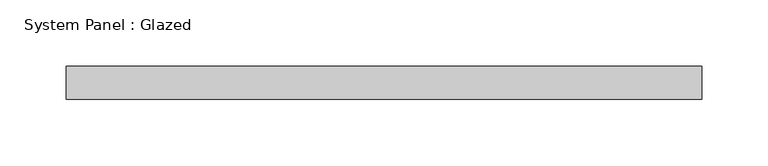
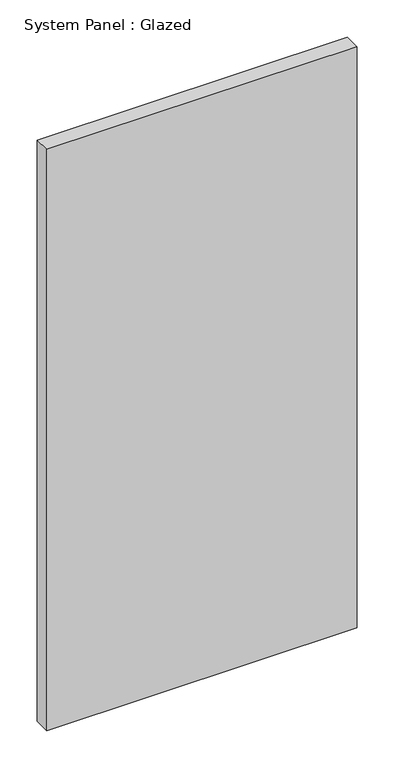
"""IFC4 building model written with IfcOpenShell, lengths in millimetres: plate geometry, System Panel : Glazed."""

from ifc_helpers import new_model, si_unit, origin, origin_with_axes, place, context, project, spatial, polyline, outline, extrude, source, transform, mapped, element, save


def system_panel_glazed_03557e9a(model_context):
    return source(origin(), model_context, "Body", "SweptSolid", [
        extrude(outline(polyline([(240.0, 24.5), (-240.0, 24.5), (-240.0, 49.5), (240.0, 49.5), (240.0, 24.5)])), origin_with_axes(), (0.0, 0.0, 1.0), 950.0),
    ])


if __name__ == "__main__":
    model = new_model("IFC4")
    model_context = context("Model", 3, world=origin())
    ifc_project = project(units=[si_unit("LENGTHUNIT", "METRE", prefix="MILLI")], contexts=[model_context])
    site = spatial("IfcSite", under=ifc_project)
    building = spatial("IfcBuilding", under=site)
    placement = place(None, origin())
    system_panel_glazed_shape = system_panel_glazed_03557e9a(model_context)
    element("IfcPlate", 1, ObjectType="System Panel : Glazed", at=placement, inside=building, context=model_context, shape_type="MappedRepresentation", body=[
        mapped(system_panel_glazed_shape, transform((0.0, 0.0, 0.0), x_axis=(1.0, 0.0, 0.0), y_axis=(0.0, 1.0, 0.0), z_axis=(0.0, 0.0, 1.0))),
    ])
    save(model, "model.ifc")
